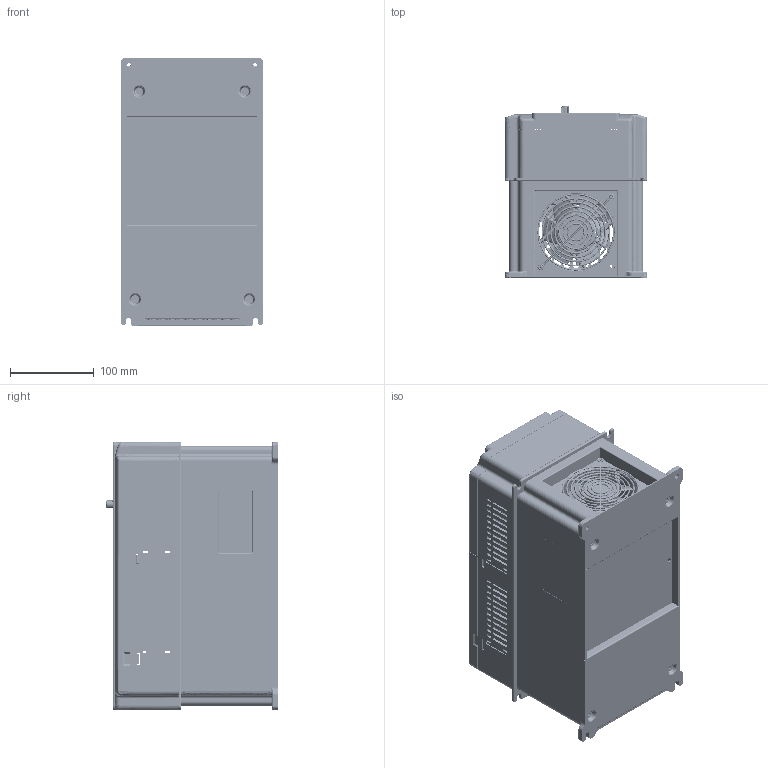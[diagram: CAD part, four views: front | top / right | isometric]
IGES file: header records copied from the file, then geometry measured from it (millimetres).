
Start section: SolidWorks IGES file using analytic representation for surfaces
Global section: file name: Z:\Products\VFD\UMI-B1\UMI-B1 (GD20 series)  3D file\GD20-015G-4\3D CAD Files\GD20-015G-4.IGS; native system: SolidWorks 2017; preprocessor: SolidWorks 2017; author: LaorB; date: 200325.171105; units: millimetre
Bounding box: 170 x 204.15 x 320 mm (x, y, z)
Surface area: 1040446.3 mm2 (no closed solid volume)
Topology: 0 solids, 0 shells, 8208 faces, 72478 edges, 72410 vertices
Faces by surface type: bspline 6323, revolution 1885
